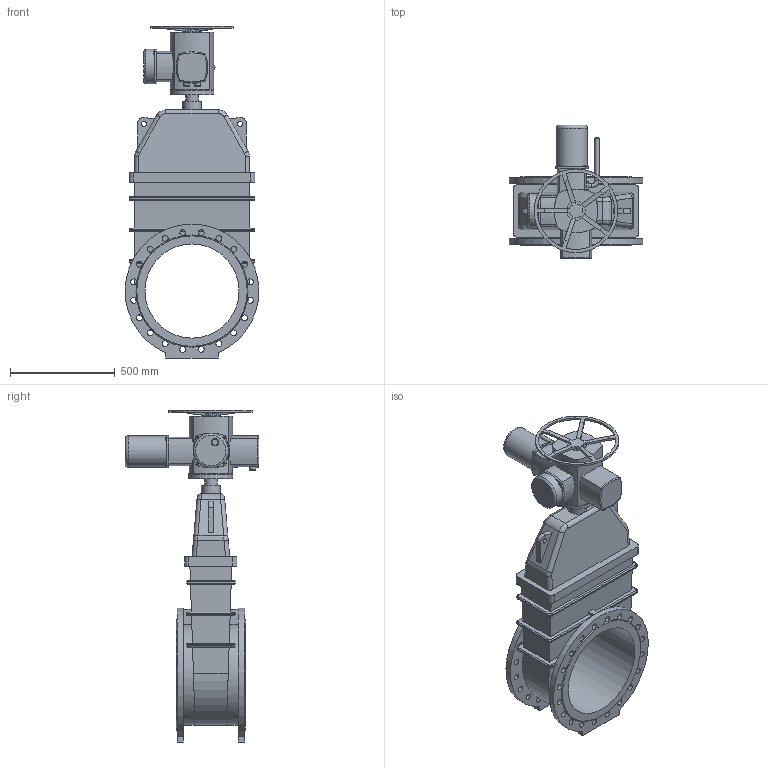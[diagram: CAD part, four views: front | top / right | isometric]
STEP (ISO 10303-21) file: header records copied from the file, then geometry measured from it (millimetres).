
FILE_DESCRIPTION(('STEP AP203'), '1');
FILE_NAME('青溻桄赅 47GVA DN450 PN10+MT903.Z45', '', ('UNSPECIFIED'), ('UNSPECIFIED'), 'ASCON STEP Converter 1.6', 'ASCON Math Kernel', '');
FILE_SCHEMA(('CONFIG_CONTROL_DESIGN'));
Length unit declared in the file: millimetre
Bounding box: 639.72 x 640 x 1587 mm (x, y, z)
Volume: 107724837 mm3; surface area: 3739671.7 mm2
Topology: 2 solids, 2 shells, 422 faces, 1048 edges, 664 vertices
Faces by surface type: cylinder 194, plane 168, bspline 34, torus 19, cone 7
Full cylindrical faces by diameter (mm): 12 x8, 17.294 x4, 20 x2, 22 x4, 25 x2, 28 x40, 29.22 x1, 30 x2, 36 x1, 40 x1, 48 x1, 60 x1, 90 x2, 130 x2, 150 x1, 165 x1, 210 x2, 400 x1, 450 x1
Entity records: 20279 total; most frequent: CARTESIAN_POINT 7169, DIRECTION 1971, ORIENTED_EDGE 1884, EDGE_CURVE 942, AXIS2_PLACEMENT_3D 762, EDGE_LOOP 660, VERTEX_POINT 658, FACE_BOUND 466
